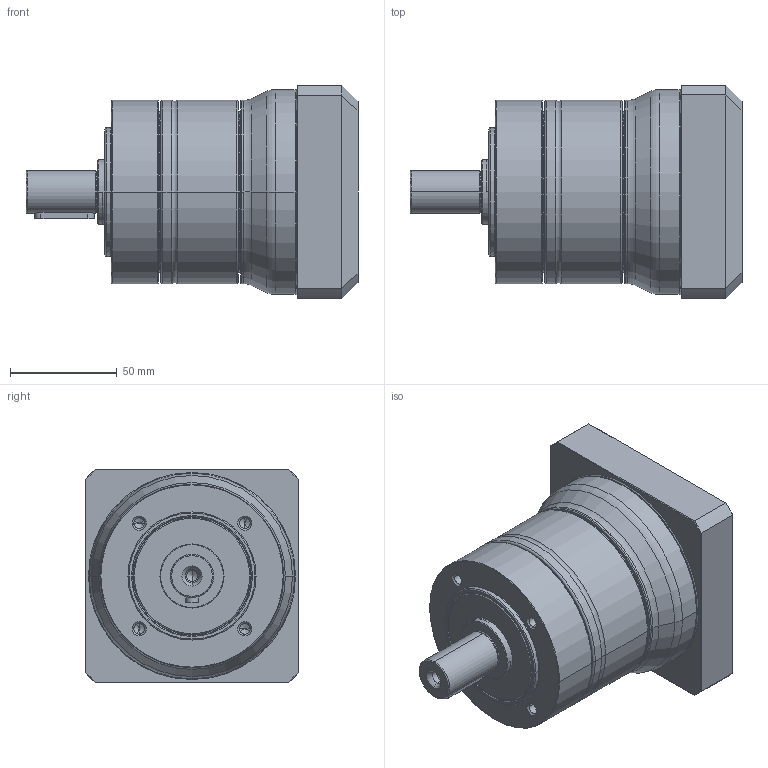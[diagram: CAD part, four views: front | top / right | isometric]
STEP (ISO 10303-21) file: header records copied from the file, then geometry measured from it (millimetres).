
FILE_DESCRIPTION((''),'2;1');
FILE_NAME('PG2-080_1ST_24-P0411500101_ASM','2016-04-12T',('d01943'),(''),'PRO/ENGINEER BY PARAMETRIC TECHNOLOGY CORPORATION, 2008410','PRO/ENGINEER BY PARAMETRIC TECHNOLOGY CORPORATION, 2008410','');
FILE_SCHEMA(('CONFIG_CONTROL_DESIGN'));
Length unit declared in the file: millimetre
Products named in the file (9): P1325310001; P0250300001; P1324300201; P0350301103; P0941302001; P0503500008; P0411500101; P1702500001; PG2-080_1ST_24-P0411500101_ASM
Assembly tree (8 placements, depth 2):
  PG2-080_1ST_24-P0411500101_ASM
    P1325310001
    P0250300001
    P1324300201
    P0350301103
    P0941302001
    P0503500008
    P0411500101
    P1702500001
Bounding box: 155.5 x 100 x 100 mm (x, y, z)
Volume: 592722.8 mm3; surface area: 142730.6 mm2
Topology: 8 solids, 9 shells, 468 faces, 1031 edges, 593 vertices
Faces by surface type: cone 142, cylinder 137, torus 94, plane 79, bspline 16
Entity records: 17455 total; most frequent: CARTESIAN_POINT 6925, DIRECTION 2397, ORIENTED_EDGE 1994, AXIS2_PLACEMENT_3D 1026, EDGE_CURVE 997, VERTEX_POINT 593, CIRCLE 557, EDGE_LOOP 532
